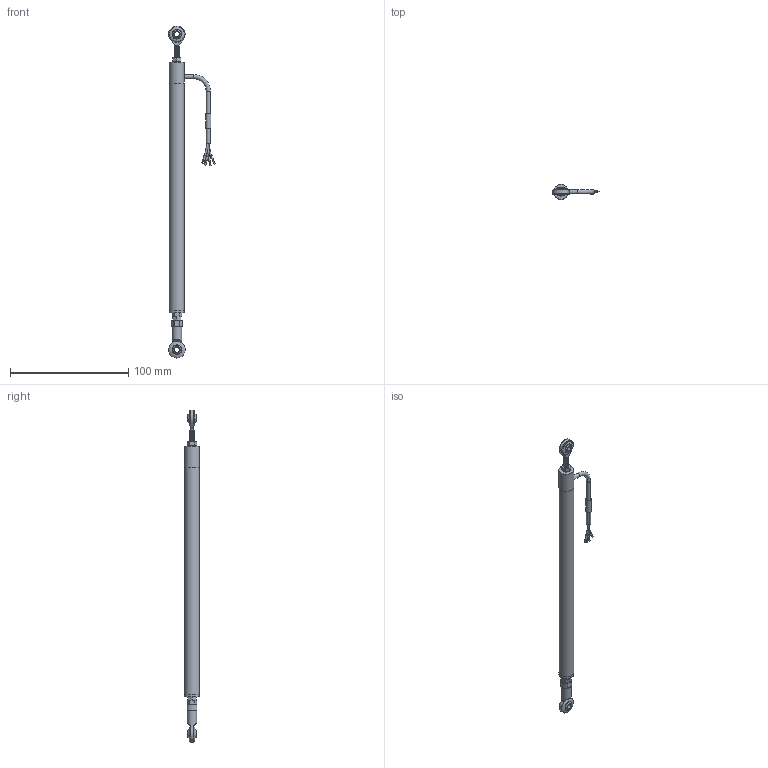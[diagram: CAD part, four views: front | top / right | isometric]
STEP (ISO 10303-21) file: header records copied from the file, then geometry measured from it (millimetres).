
FILE_DESCRIPTION(/* description */ (''),/* implementation_level */ '2;1');
FILE_NAME(/* name */ 'LPPS-12-150-R Assembly (wrapped).step',/* time_stamp */ '2023-10-10T14:08:04-04:00',/* author */ ('TSC_Grant'),/* organization */ (''),/* preprocessor_version */ 'ST-DEVELOPER v19.2',/* originating_system */ 'Autodesk Inventor 2024',/* authorisation */ '');
FILE_SCHEMA (('AUTOMOTIVE_DESIGN { 1 0 10303 214 3 1 1 }'));
Length unit declared in the file: inch
Products named in the file (4): LPPS-12-010-R Assembly (wrapped); LPPS-12-010-R Spoiler (wrapped); Wire; LPPS-12-150-R Body (wrapped)
Assembly tree (3 placements, depth 2):
  LPPS-12-010-R Assembly (wrapped)
    LPPS-12-010-R Spoiler (wrapped)
    Wire
    LPPS-12-150-R Body (wrapped)
Bounding box: 39.48 x 12.7 x 280.7 mm (x, y, z)
Volume: 29791.3 mm3; surface area: 17133.9 mm2
Topology: 13 solids, 13 shells, 200 faces, 462 edges, 306 vertices
Faces by surface type: plane 94, cylinder 74, bspline 21, torus 7, sphere 4
Full cylindrical faces by diameter (mm): 1.016 x3, 1.27 x1, 1.524 x3, 1.651 x2, 3.632 x5, 3.937 x14, 4.14 x2, 4.191 x1, 4.445 x1, 6.604 x1, 8.001 x1, 12.7 x3
Entity records: 9550 total; most frequent: CARTESIAN_POINT 4681, ORIENTED_EDGE 924, DIRECTION 895, EDGE_CURVE 462, AXIS2_PLACEMENT_3D 345, VERTEX_POINT 306, EDGE_LOOP 228, LINE 205
